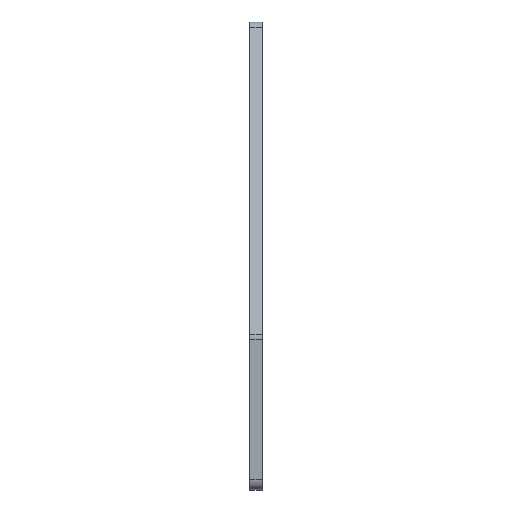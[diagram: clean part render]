
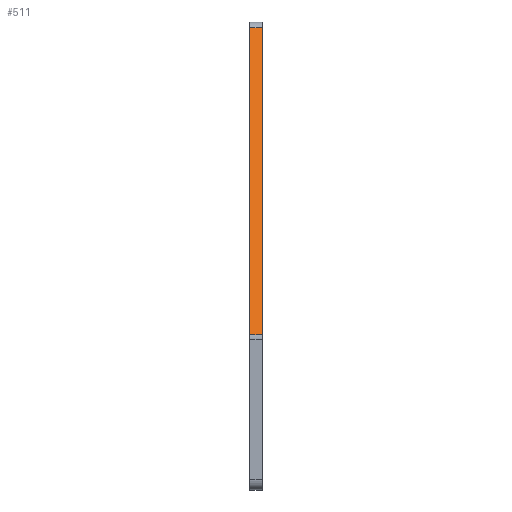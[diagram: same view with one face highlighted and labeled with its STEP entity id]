
A CAD part, left-side view. The second image highlights one B-rep face of the part: STEP entity #511.
In plain terms, the highlighted planar face has unit normal (-0.894, 0, 0.447).
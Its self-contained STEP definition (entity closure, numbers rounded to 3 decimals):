
#8 = EDGE_CURVE ( 'NONE', #863, #1083, #387, .T. ) ;
#36 = DIRECTION ( 'NONE',  ( 0.447, 0., 0.894 ) ) ;
#60 = DIRECTION ( 'NONE',  ( -0.894, 0., 0.447 ) ) ;
#64 = CARTESIAN_POINT ( 'NONE',  ( -98.376, 3., 25.425 ) ) ;
#112 = ORIENTED_EDGE ( 'NONE', *, *, #298, .T. ) ;
#185 = CARTESIAN_POINT ( 'NONE',  ( -98.376, -1., 25.425 ) ) ;
#201 = VECTOR ( 'NONE', #774, 1000. ) ;
#206 = AXIS2_PLACEMENT_3D ( 'NONE', #992, #60, #657 ) ;
#252 = LINE ( 'NONE', #962, #201 ) ;
#298 = EDGE_CURVE ( 'NONE', #863, #788, #252, .T. ) ;
#363 = DIRECTION ( 'NONE',  ( 0., 1., 0. ) ) ;
#387 = LINE ( 'NONE', #185, #791 ) ;
#406 = VERTEX_POINT ( 'NONE', #814 ) ;
#430 = ORIENTED_EDGE ( 'NONE', *, *, #8, .F. ) ;
#454 = CARTESIAN_POINT ( 'NONE',  ( -98.376, -1., 25.425 ) ) ;
#466 = EDGE_LOOP ( 'NONE', ( #733, #430, #112, #509 ) ) ;
#481 = EDGE_CURVE ( 'NONE', #788, #406, #936, .T. ) ;
#509 = ORIENTED_EDGE ( 'NONE', *, *, #481, .T. ) ;
#511 = ADVANCED_FACE ( 'NONE', ( #908 ), #740, .T. ) ;
#591 = CARTESIAN_POINT ( 'NONE',  ( -50.519, -1., 121.139 ) ) ;
#625 = VECTOR ( 'NONE', #36, 1000. ) ;
#657 = DIRECTION ( 'NONE',  ( 0.447, 0., 0.894 ) ) ;
#678 = DIRECTION ( 'NONE',  ( 0., 1., 0. ) ) ;
#718 = VECTOR ( 'NONE', #678, 1000. ) ;
#733 = ORIENTED_EDGE ( 'NONE', *, *, #876, .F. ) ;
#740 = PLANE ( 'NONE',  #206 ) ;
#774 = DIRECTION ( 'NONE',  ( 0.447, 0., 0.894 ) ) ;
#788 = VERTEX_POINT ( 'NONE', #819 ) ;
#791 = VECTOR ( 'NONE', #363, 1000. ) ;
#814 = CARTESIAN_POINT ( 'NONE',  ( -50.519, 3., 121.139 ) ) ;
#819 = CARTESIAN_POINT ( 'NONE',  ( -50.519, -1., 121.139 ) ) ;
#821 = LINE ( 'NONE', #1056, #625 ) ;
#863 = VERTEX_POINT ( 'NONE', #454 ) ;
#876 = EDGE_CURVE ( 'NONE', #1083, #406, #821, .T. ) ;
#908 = FACE_OUTER_BOUND ( 'NONE', #466, .T. ) ;
#936 = LINE ( 'NONE', #591, #718 ) ;
#962 = CARTESIAN_POINT ( 'NONE',  ( -98.376, -1., 25.425 ) ) ;
#992 = CARTESIAN_POINT ( 'NONE',  ( -98.376, -1., 25.425 ) ) ;
#1056 = CARTESIAN_POINT ( 'NONE',  ( -98.376, 3., 25.425 ) ) ;
#1083 = VERTEX_POINT ( 'NONE', #64 ) ;
